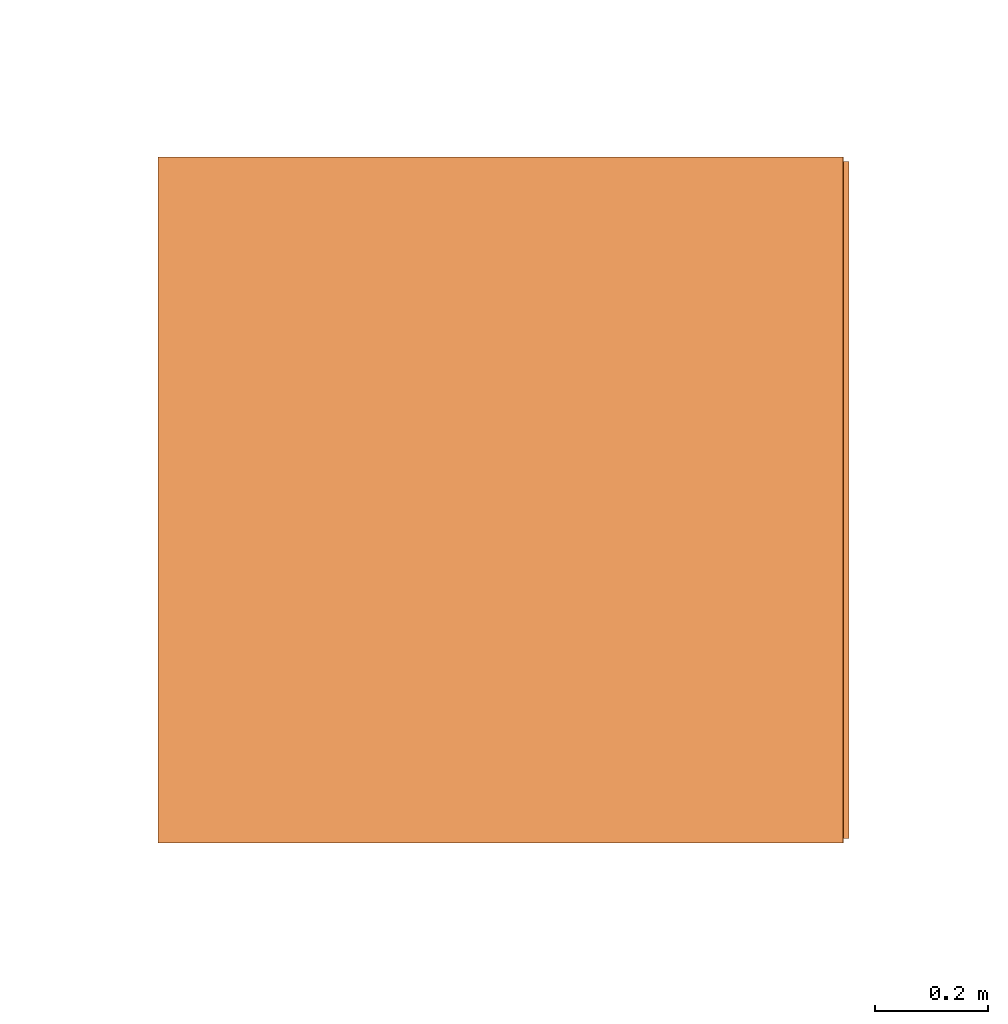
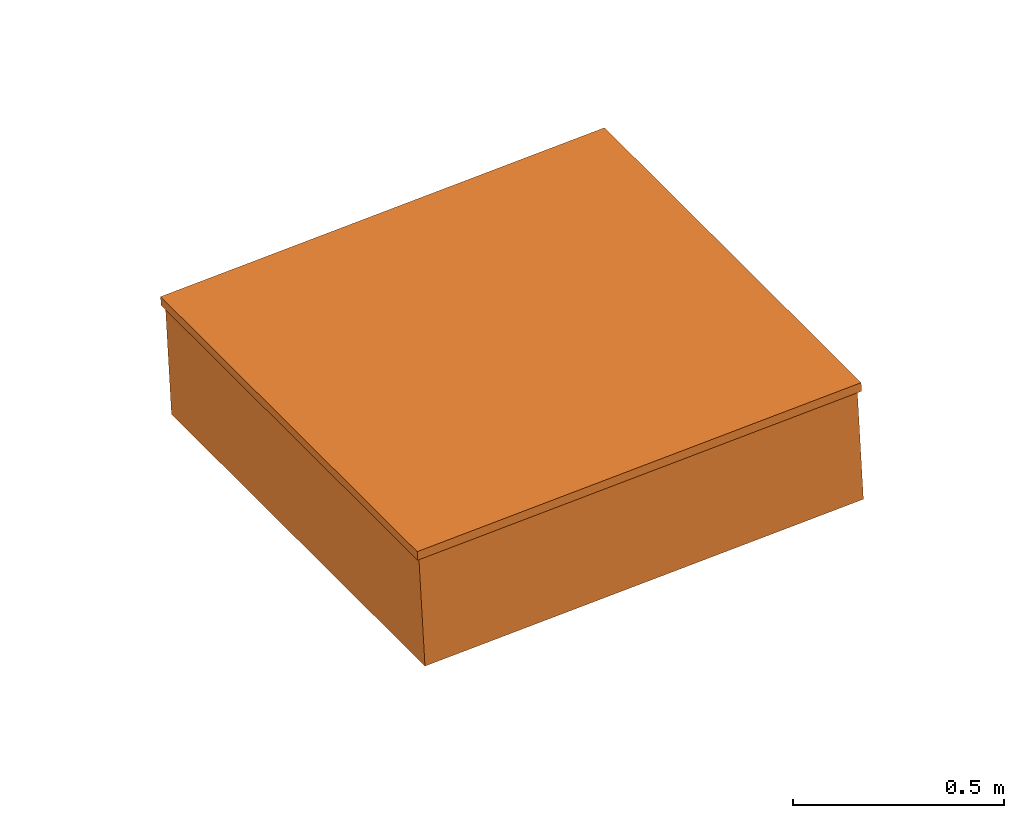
# One storey, part 2 of 2: 1 proxy.
"""IFC2X3 building model written with IfcOpenShell, lengths in metres."""

from ifc_helpers import new_model, entity, si_unit, converted_unit, derived_unit, direction, frame, origin, place, context, subcontext, project, spatial, faceted_brep, source, transform, mapped, material, material_list, type_object, type_shapes, element, save


model = new_model("IFC2X3")

# Units and contexts
model_context = context("Model", 3, precision=1e-05, world=origin(), true_north=direction((6.12303176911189e-17, 1.0)))
body_context = subcontext(model_context, "Body", "Model", "MODEL_VIEW")
ifc_project = project(units=[si_unit("LENGTHUNIT", "METRE"), si_unit("AREAUNIT", "SQUARE_METRE"), si_unit("VOLUMEUNIT", "CUBIC_METRE"), converted_unit("PLANEANGLEUNIT", "DEGREE", entity("IfcRatioMeasure", 0.0174532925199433), si_unit("PLANEANGLEUNIT", "RADIAN"), dimensions=[0, 0, 0, 0, 0, 0, 0]), si_unit("MASSUNIT", "GRAM", prefix="KILO"), derived_unit("MASSDENSITYUNIT", [(si_unit("MASSUNIT", "GRAM", prefix="KILO"), 1), (si_unit("LENGTHUNIT", "METRE"), -3)]), derived_unit("MOMENTOFINERTIAUNIT", [(si_unit("LENGTHUNIT", "METRE"), 4)]), si_unit("TIMEUNIT", "SECOND"), si_unit("FREQUENCYUNIT", "HERTZ"), si_unit("THERMODYNAMICTEMPERATUREUNIT", "DEGREE_CELSIUS"), derived_unit("THERMALTRANSMITTANCEUNIT", [(si_unit("MASSUNIT", "GRAM", prefix="KILO"), 1), (si_unit("THERMODYNAMICTEMPERATUREUNIT", "KELVIN"), -1), (si_unit("TIMEUNIT", "SECOND"), -3)]), derived_unit("VOLUMETRICFLOWRATEUNIT", [(si_unit("LENGTHUNIT", "METRE"), 3), (si_unit("TIMEUNIT", "SECOND"), -1)]), si_unit("ELECTRICCURRENTUNIT", "AMPERE"), si_unit("ELECTRICVOLTAGEUNIT", "VOLT"), si_unit("POWERUNIT", "WATT"), si_unit("FORCEUNIT", "NEWTON", prefix="KILO"), si_unit("ILLUMINANCEUNIT", "LUX"), si_unit("LUMINOUSFLUXUNIT", "LUMEN"), si_unit("LUMINOUSINTENSITYUNIT", "CANDELA"), derived_unit("USERDEFINED", [(si_unit("MASSUNIT", "GRAM", prefix="KILO"), -1), (si_unit("LENGTHUNIT", "METRE"), -2), (si_unit("TIMEUNIT", "SECOND"), 3), (si_unit("LUMINOUSFLUXUNIT", "LUMEN"), 1)]), derived_unit("LINEARVELOCITYUNIT", [(si_unit("LENGTHUNIT", "METRE"), 1), (si_unit("TIMEUNIT", "SECOND"), -1)]), si_unit("PRESSUREUNIT", "PASCAL"), derived_unit("USERDEFINED", [(si_unit("LENGTHUNIT", "METRE"), -2), (si_unit("MASSUNIT", "GRAM", prefix="KILO"), 1), (si_unit("TIMEUNIT", "SECOND"), -2)]), derived_unit("LINEARFORCEUNIT", [(si_unit("MASSUNIT", "GRAM", prefix="KILO"), 1), (si_unit("LENGTHUNIT", "METRE"), 1), (si_unit("TIMEUNIT", "SECOND"), -2), (si_unit("LENGTHUNIT", "METRE"), -1)]), derived_unit("PLANARFORCEUNIT", [(si_unit("MASSUNIT", "GRAM", prefix="KILO"), 1), (si_unit("LENGTHUNIT", "METRE"), 1), (si_unit("TIMEUNIT", "SECOND"), -2), (si_unit("LENGTHUNIT", "METRE"), -2)])], contexts=[model_context])

# Site, building, storey
site_placement = place(None, origin())
site = spatial("IfcSite", under=ifc_project, at=site_placement, Name="Default", CompositionType="ELEMENT")
building_placement = place(site_placement, origin())
building = spatial("IfcBuilding", under=site, at=building_placement, CompositionType="ELEMENT")
storey_placement = place(building_placement, frame((0.0, 0.0, 5.77187276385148)))
storey = spatial("IfcBuildingStorey", under=building, at=storey_placement, Name="Niveau 1  - 03", CompositionType="ELEMENT", Elevation=5.77187276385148)

# Proxy
ifc_material_1 = material(Name="Verre")
ifc_material_2 = material(Name="Métal - Aluminium")
ifc_material_list_1 = material_list([ifc_material_1, ifc_material_2])
ifc_material_list_2 = material_list([ifc_material_2, ifc_material_1])
building_element_proxy_type = type_object("IfcBuildingElementProxyType", Name="Famille 0:Famille 110x110", PredefinedType="NOTDEFINED", material=ifc_material_list_2)
shared_shape = source(origin(), body_context, "Body", "Brep", [
    faceted_brep([(0.575, -0.575000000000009, 0.175991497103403), (-0.575, -0.575000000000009, 0.175991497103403), (-0.575, 0.574999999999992, 0.175991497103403), (0.575, 0.574999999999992, 0.175991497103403), (0.575, -0.575000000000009, 0.195154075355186), (0.575, 0.574999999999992, 0.195154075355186), (-0.575, 0.574999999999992, 0.195154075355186), (-0.575, -0.575000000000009, 0.195154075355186)], [[[0, 1, 2, 3]], [[4, 5, 6, 7]], [[5, 4, 0, 3]], [[6, 5, 3, 2]], [[7, 6, 2, 1]], [[4, 7, 1, 0]]]),
    faceted_brep([(-0.575, -0.575000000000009, 0.195154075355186), (-0.607499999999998, -0.607500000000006, 0.195154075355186), (0.607499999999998, -0.607500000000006, 0.195154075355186), (0.575, -0.575000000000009, 0.195154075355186), (-0.549999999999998, -0.550000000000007, -0.150000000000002), (-0.549999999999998, -0.550000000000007, 0.175991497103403), (0.549999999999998, -0.550000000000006, 0.175991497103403), (0.549999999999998, -0.550000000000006, -0.150000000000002), (-0.599999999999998, -0.600000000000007, -0.150000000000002), (0.599999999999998, -0.600000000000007, -0.150000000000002), (0.607499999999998, 0.60749999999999, 0.195154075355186), (0.575, 0.574999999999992, 0.195154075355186), (0.549999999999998, 0.54999999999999, 0.175991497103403), (0.549999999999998, 0.54999999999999, -0.150000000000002), (0.599999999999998, 0.59999999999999, -0.150000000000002), (-0.607499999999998, 0.60749999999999, 0.195154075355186), (-0.575, 0.574999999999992, 0.195154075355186), (-0.549999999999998, 0.54999999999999, 0.175991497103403), (-0.549999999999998, 0.54999999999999, -0.150000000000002), (-0.599999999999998, 0.59999999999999, -0.150000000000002), (-0.607499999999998, -0.607500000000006, 0.169999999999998), (-0.599999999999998, -0.600000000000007, 0.169999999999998), (0.599999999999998, -0.600000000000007, 0.169999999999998), (0.607499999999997, -0.607500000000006, 0.169999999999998), (-0.575, -0.575000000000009, 0.175991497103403), (0.575, -0.575000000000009, 0.175991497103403), (0.599999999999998, 0.59999999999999, 0.169999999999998), (0.607499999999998, 0.60749999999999, 0.169999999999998), (0.575, 0.574999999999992, 0.175991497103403), (-0.599999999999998, 0.59999999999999, 0.169999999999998), (-0.607499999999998, 0.60749999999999, 0.169999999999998), (-0.575, 0.574999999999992, 0.175991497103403)], [[[0, 1, 2, 3]], [[4, 5, 6, 7]], [[8, 4, 7, 9]], [[3, 2, 10, 11]], [[7, 6, 12, 13]], [[9, 7, 13, 14]], [[11, 10, 15, 16]], [[13, 12, 17, 18]], [[14, 13, 18, 19]], [[16, 15, 1, 0]], [[18, 17, 5, 4]], [[19, 18, 4, 8]], [[20, 21, 22, 23]], [[24, 0, 3, 25]], [[5, 24, 25, 6]], [[23, 22, 26, 27]], [[25, 3, 11, 28]], [[6, 25, 28, 12]], [[27, 26, 29, 30]], [[28, 11, 16, 31]], [[12, 28, 31, 17]], [[30, 29, 21, 20]], [[31, 16, 0, 24]], [[17, 31, 24, 5]], [[21, 8, 9, 22]], [[1, 20, 23, 2]], [[22, 9, 14, 26]], [[2, 23, 27, 10]], [[26, 14, 19, 29]], [[10, 27, 30, 15]], [[29, 19, 8, 21]], [[15, 30, 20, 1]]]),
])
type_shapes(building_element_proxy_type, [shared_shape])
proxy_placement = place(storey_placement, frame((-33.6311080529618, -36.6043229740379, -2.43163074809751), z_axis=(-0.0523359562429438, 0.0, 0.998629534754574), x_axis=(-0.998629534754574, 0.0, -0.0523359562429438)))
element("IfcBuildingElementProxy", 1, at=proxy_placement, inside=storey, type_object=building_element_proxy_type, material=ifc_material_list_1, Name="Famille 0:Famille 110x110", ObjectType="Famille 0:Famille 110x110", context=body_context, shape_type="MappedRepresentation", body=[
    mapped(shared_shape, transform((0.0, 0.0, 0.0), scale=1.0)),
])

save(model, "model.ifc")
